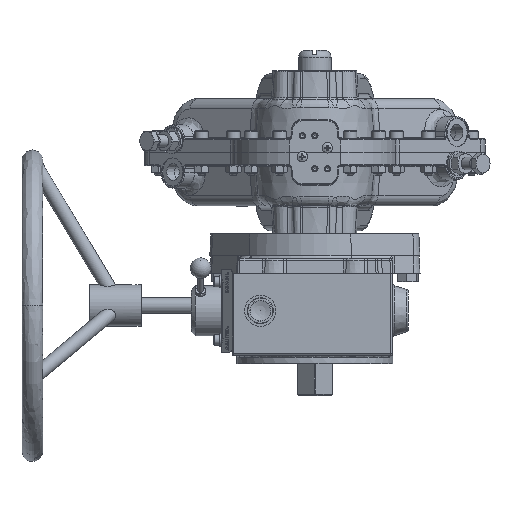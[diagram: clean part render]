
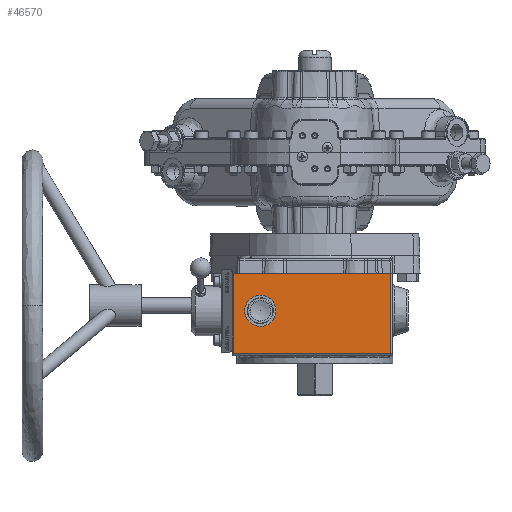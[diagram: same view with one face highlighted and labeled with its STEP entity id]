
A CAD part, front view. The second image highlights one B-rep face of the part: STEP entity #46570.
In plain terms, the highlighted planar face has unit normal (0, -1, 0).
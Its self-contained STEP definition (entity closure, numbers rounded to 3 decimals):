
#6260=LINE('',#131459,#8113);
#6280=LINE('',#131557,#8133);
#6285=LINE('',#131573,#8138);
#6302=LINE('',#132075,#8155);
#8113=VECTOR('',#63431,1000.);
#8133=VECTOR('',#63515,1000.);
#8138=VECTOR('',#63530,1000.);
#8155=VECTOR('',#63611,1000.);
#19945=ORIENTED_EDGE('',*,*,#27780,.T.);
#19946=ORIENTED_EDGE('',*,*,#27730,.T.);
#19947=ORIENTED_EDGE('',*,*,#27788,.T.);
#19948=ORIENTED_EDGE('',*,*,#27827,.T.);
#19949=ORIENTED_EDGE('',*,*,#27713,.T.);
#27713=EDGE_CURVE('',#32631,#32631,#35472,.T.);
#27730=EDGE_CURVE('',#32645,#32644,#6260,.T.);
#27780=EDGE_CURVE('',#32691,#32645,#6280,.T.);
#27788=EDGE_CURVE('',#32644,#32696,#6285,.T.);
#27827=EDGE_CURVE('',#32696,#32691,#6302,.T.);
#32631=VERTEX_POINT('',#131424);
#32644=VERTEX_POINT('',#131458);
#32645=VERTEX_POINT('',#131460);
#32691=VERTEX_POINT('',#131558);
#32696=VERTEX_POINT('',#131572);
#35472=CIRCLE('',#52912,15.);
#38949=EDGE_LOOP('',(#19945,#19946,#19947,#19948));
#38950=EDGE_LOOP('',(#19949));
#42584=FACE_BOUND('',#38949,.T.);
#42585=FACE_BOUND('',#38950,.T.);
#43782=PLANE('',#52999);
#46570=ADVANCED_FACE('',(#42584,#42585),#43782,.F.);
#52912=AXIS2_PLACEMENT_3D('',#131423,#63390,#63391);
#52999=AXIS2_PLACEMENT_3D('',#132074,#63609,#63610);
#63390=DIRECTION('',(0.,1.,0.));
#63391=DIRECTION('',(1.,0.,0.));
#63431=DIRECTION('',(-1.,0.,0.));
#63515=DIRECTION('',(0.,0.,1.));
#63530=DIRECTION('',(0.,0.,-1.));
#63609=DIRECTION('',(0.,1.,0.));
#63610=DIRECTION('',(1.,0.,0.));
#63611=DIRECTION('',(1.,0.,0.));
#131423=CARTESIAN_POINT('',(-52.5,-115.,-109.19));
#131424=CARTESIAN_POINT('',(-37.5,-115.,-109.19));
#131458=CARTESIAN_POINT('',(-78.172,-115.,-73.19));
#131459=CARTESIAN_POINT('',(-82.,-115.,-73.19));
#131460=CARTESIAN_POINT('',(73.,-115.,-73.19));
#131557=CARTESIAN_POINT('',(73.,-115.,-70.19));
#131558=CARTESIAN_POINT('',(73.,-115.,-150.19));
#131572=CARTESIAN_POINT('',(-78.172,-115.,-150.19));
#131573=CARTESIAN_POINT('',(-78.172,-115.,-152.19));
#132074=CARTESIAN_POINT('',(-82.,-115.,-70.19));
#132075=CARTESIAN_POINT('',(-82.,-115.,-150.19));
